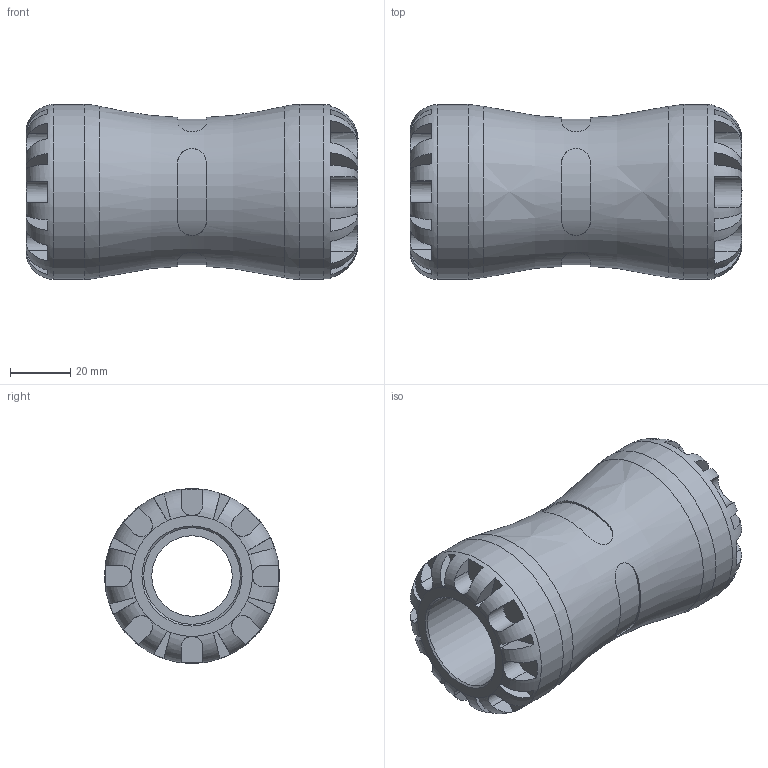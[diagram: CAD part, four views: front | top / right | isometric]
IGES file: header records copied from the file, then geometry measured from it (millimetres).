
Global section: file name: 1001Q0032_1901Q0032.ipt; native system: Autodesk Inventor 2015; preprocessor: unknown; author: KIM; date: 20170122.104540; units: millimetre
Bounding box: 110 x 58 x 58 mm (x, y, z)
Volume: 151303.7 mm3; surface area: 36459.5 mm2
Topology: 1 solids, 1 shells, 164 faces, 427 edges, 270 vertices
Faces by surface type: plane 108, revolution 34, cylinder 22
Full cylindrical faces by diameter (mm): 58 x2
